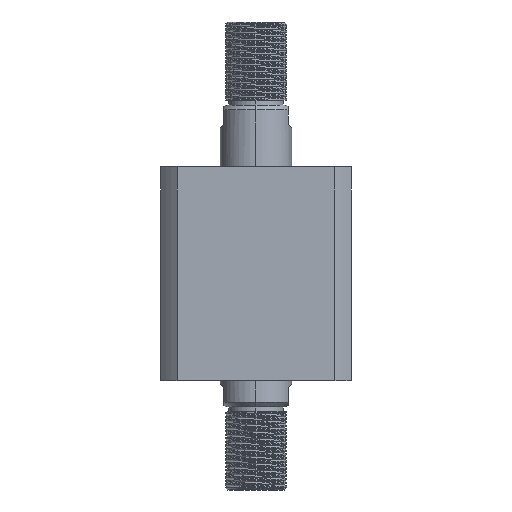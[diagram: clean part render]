
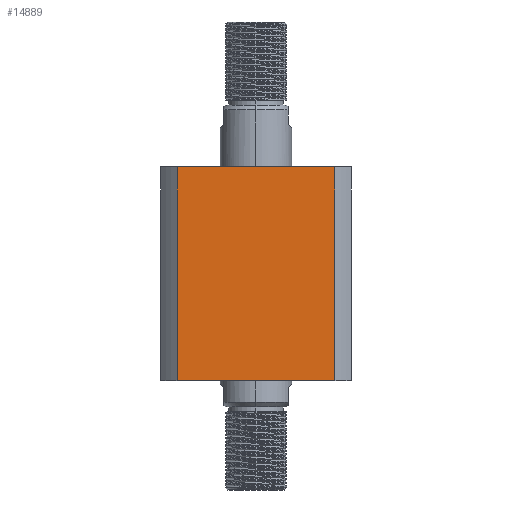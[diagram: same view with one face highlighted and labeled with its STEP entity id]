
A CAD part, left-side view. The second image highlights one B-rep face of the part: STEP entity #14889.
In plain terms, the highlighted planar face has unit normal (-1, 0, 0).
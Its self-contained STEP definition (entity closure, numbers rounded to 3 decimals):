
#382 = EDGE_CURVE ( 'NONE', #15507, #1312, #11969, .T. ) ;
#749 = CARTESIAN_POINT ( 'NONE',  ( -40., 33.226, 45. ) ) ;
#852 = VECTOR ( 'NONE', #13466, 1000. ) ;
#1312 = VERTEX_POINT ( 'NONE', #1695 ) ;
#1565 = EDGE_CURVE ( 'NONE', #1312, #10542, #13021, .T. ) ;
#1695 = CARTESIAN_POINT ( 'NONE',  ( -40., 33.226, -45. ) ) ;
#2176 = DIRECTION ( 'NONE',  ( 0., -1., 0. ) ) ;
#2675 = EDGE_CURVE ( 'NONE', #15507, #10806, #11706, .T. ) ;
#4583 = VECTOR ( 'NONE', #10443, 1000. ) ;
#5002 = PLANE ( 'NONE',  #16558 ) ;
#5560 = VECTOR ( 'NONE', #12971, 1000. ) ;
#6590 = CARTESIAN_POINT ( 'NONE',  ( -40., 33.226, -45. ) ) ;
#6922 = ORIENTED_EDGE ( 'NONE', *, *, #382, .T. ) ;
#8920 = DIRECTION ( 'NONE',  ( 0., 1., 0. ) ) ;
#10443 = DIRECTION ( 'NONE',  ( 0., 0., -1. ) ) ;
#10542 = VERTEX_POINT ( 'NONE', #10982 ) ;
#10806 = VERTEX_POINT ( 'NONE', #16767 ) ;
#10860 = EDGE_LOOP ( 'NONE', ( #17168, #14188, #13575, #6922 ) ) ;
#10982 = CARTESIAN_POINT ( 'NONE',  ( -40., -33.226, -45. ) ) ;
#11574 = CARTESIAN_POINT ( 'NONE',  ( -40., -33.226, 45. ) ) ;
#11706 = LINE ( 'NONE', #17163, #13439 ) ;
#11948 = CARTESIAN_POINT ( 'NONE',  ( -40., 33.226, 45. ) ) ;
#11969 = LINE ( 'NONE', #749, #5560 ) ;
#12971 = DIRECTION ( 'NONE',  ( 0., 0., -1. ) ) ;
#13021 = LINE ( 'NONE', #6590, #852 ) ;
#13439 = VECTOR ( 'NONE', #2176, 1000. ) ;
#13466 = DIRECTION ( 'NONE',  ( 0., -1., 0. ) ) ;
#13575 = ORIENTED_EDGE ( 'NONE', *, *, #2675, .F. ) ;
#13989 = LINE ( 'NONE', #11574, #4583 ) ;
#14188 = ORIENTED_EDGE ( 'NONE', *, *, #14811, .F. ) ;
#14564 = CARTESIAN_POINT ( 'NONE',  ( -40., 33.226, 45. ) ) ;
#14811 = EDGE_CURVE ( 'NONE', #10806, #10542, #13989, .T. ) ;
#14889 = ADVANCED_FACE ( 'NONE', ( #17613 ), #5002, .F. ) ;
#15507 = VERTEX_POINT ( 'NONE', #11948 ) ;
#16558 = AXIS2_PLACEMENT_3D ( 'NONE', #14564, #17073, #8920 ) ;
#16767 = CARTESIAN_POINT ( 'NONE',  ( -40., -33.226, 45. ) ) ;
#17073 = DIRECTION ( 'NONE',  ( 1., 0., 0. ) ) ;
#17163 = CARTESIAN_POINT ( 'NONE',  ( -40., 33.226, 45. ) ) ;
#17168 = ORIENTED_EDGE ( 'NONE', *, *, #1565, .T. ) ;
#17613 = FACE_OUTER_BOUND ( 'NONE', #10860, .T. ) ;
